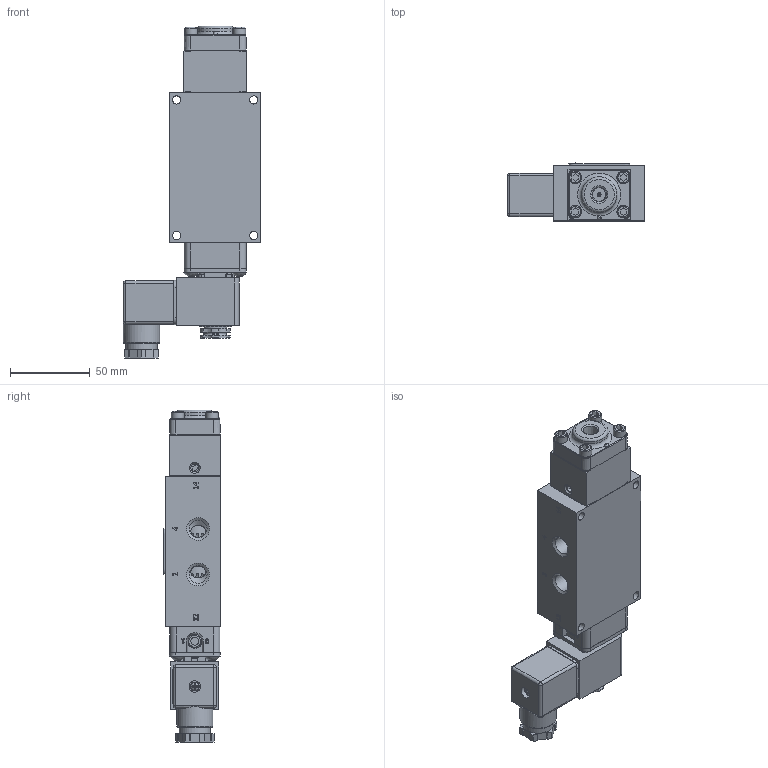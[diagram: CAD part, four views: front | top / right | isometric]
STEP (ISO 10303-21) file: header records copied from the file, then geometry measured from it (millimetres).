
FILE_DESCRIPTION(/* description */ (''),/* implementation_level */ '2;1');
FILE_NAME(/* name */ 'D:\Engineering\Product\valves\Assembly\standard\ESR\stp\ESR2ACQ.stp',/* time_stamp */ '2022-06-17T08:21:17-04:00',/* author */ ('RMcKenna'),/* organization */ (''),/* preprocessor_version */ 'ST-DEVELOPER v18.1',/* originating_system */ 'Autodesk Inventor 2021',/* authorisation */ '');
FILE_SCHEMA (('AUTOMOTIVE_DESIGN { 1 0 10303 214 3 1 1 }'));
Products named in the file (1): Part21
Bounding box: 86.23 x 36.27 x 208.06 mm (x, y, z)
Volume: 276962.5 mm3; surface area: 93553 mm2
Topology: 1 solids, 39 shells, 1995 faces, 4963 edges, 3178 vertices
Faces by surface type: plane 955, cylinder 485, cone 297, torus 131, bspline 115, sphere 12
Full cylindrical faces by diameter (mm): 1.016 x1, 1.168 x10, 1.3 x1, 1.397 x1, 1.5 x1, 1.651 x1, 2.032 x8, 2.07 x2, 2.261 x2, 2.35 x4, 2.362 x2, 2.381 x2, 2.5 x1, 2.778 x2, 2.8 x1, 2.819 x1, 2.845 x2, 3 x4, 3.048 x3, 3.175 x2, 3.4 x1, 3.683 x11, 3.912 x3, 4.064 x1, 4.191 x2, 4.394 x1, 4.826 x8, 4.953 x1, 4.978 x2, 5.15 x4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
Entity records: 66482 total; most frequent: CARTESIAN_POINT 17008, ORIENTED_EDGE 9872, DIRECTION 9703, EDGE_CURVE 4936, AXIS2_PLACEMENT_3D 3551, VERTEX_POINT 3178, LINE 2601, VECTOR 2601
